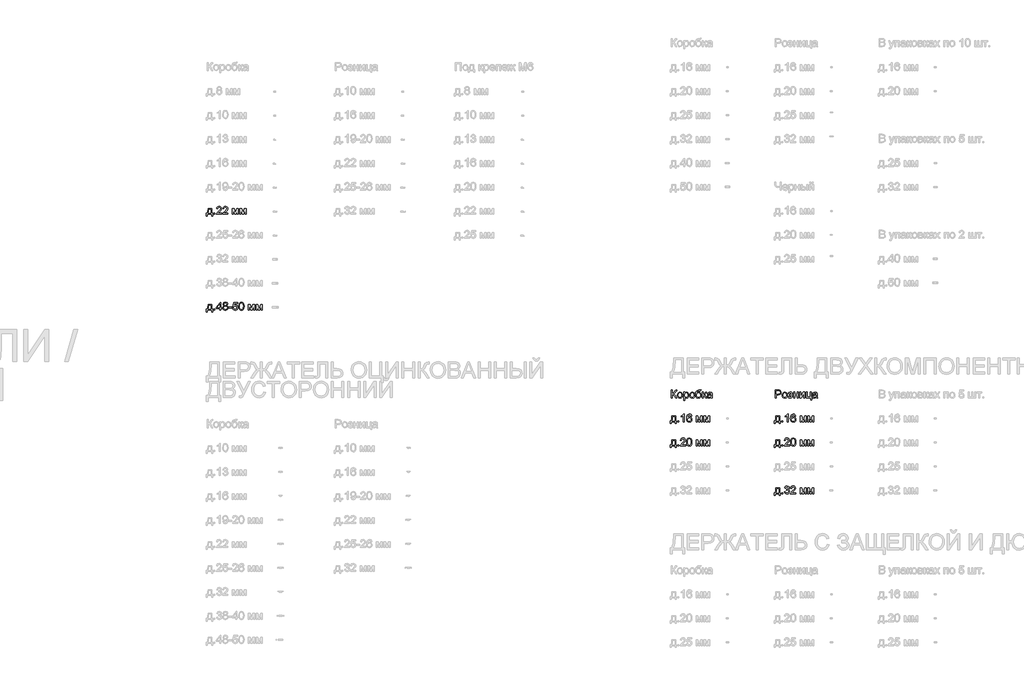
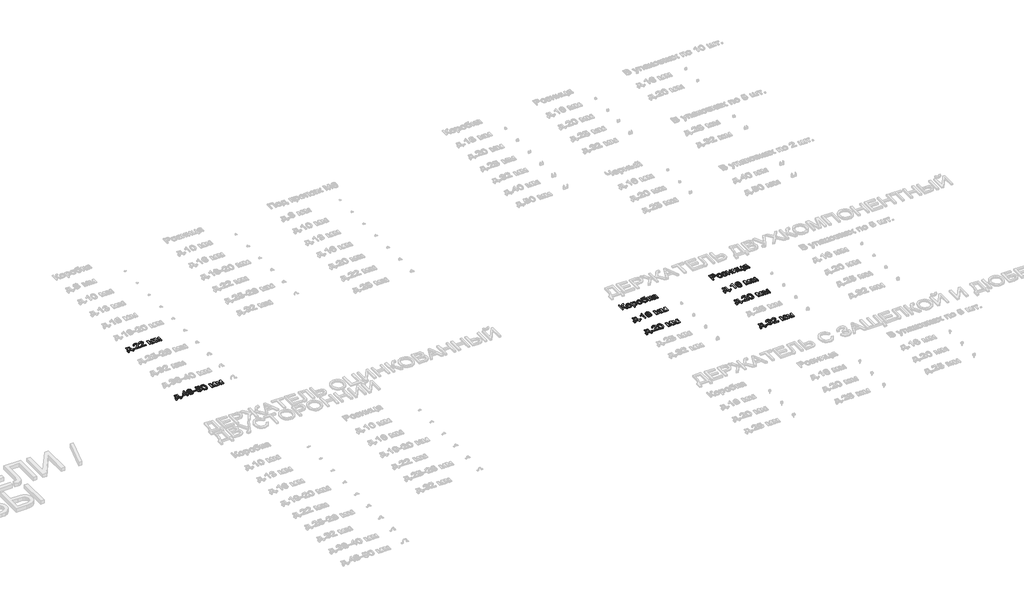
# One storey, part 37 of 98: 9 proxies.
"""IFC4 building model written with IfcOpenShell, lengths in millimetres."""

from ifc_helpers import new_model, si_unit, origin, origin_with_axes, place, context, project, spatial, polyline, outline, extrude, element, save

model = new_model("IFC4")

# Units and contexts
model_context = context("Model", 3, world=origin())
ifc_project = project(units=[si_unit("LENGTHUNIT", "METRE", prefix="MILLI")], contexts=[model_context])

# Site, building, storey
site = spatial("IfcSite", under=ifc_project)
building = spatial("IfcBuilding", under=site)
storey = spatial("IfcBuildingStorey", under=building, Name="Этаж 01", Elevation=0.0)

# Proxies
placement = place(None, origin())
element("IfcBuildingElementProxy", 1, Name="100", ObjectType="100", at=placement, inside=storey, context=model_context, shape_type="SweptSolid", body=[
    extrude(outline(polyline([(-26.9858135, -33985.7395637), (20.1030819, -33985.7395637), (20.1030819, -34046.9551277), (29.520861, -34046.9551277), (29.520861, -34079.9173545), (16.9638222, -34079.9173545), (16.9638222, -34059.5121665), (-34.8339627, -34059.5121665), (-34.8339627, -34079.9173545), (-47.3910015, -34079.9173545), (-47.3910015, -34046.9551277), (-39.5428522, -34046.9551277), (-29.8430303, -34023.0060098), (-26.9858135, -33985.7395637)]), holes=[polyline([(-15.9984045, -33998.2966025), (-18.9414605, -34026.905559), (-25.4161836, -34046.9551277), (7.5460431, -34046.9551277), (7.5460431, -33998.2966025), (-15.9984045, -33998.2966025)])]), origin_with_axes(), (0.0, 0.0, 1.0), 10.0),
    extrude(outline(polyline([(46.7867893, -34059.5121665), (46.7867893, -34046.9551277), (59.3438281, -34046.9551277), (59.3438281, -34059.5121665), (46.7867893, -34059.5121665)])), origin_with_axes(), (0.0, 0.0, 1.0), 10.0),
    extrude(outline(polyline([(144.1038398, -34046.9551277), (144.1038398, -34059.5121665), (78.1793862, -34059.5121665), (79.5282869, -34050.8546768), (87.1557069, -34037.5250859), (102.8765308, -34022.9692216), (124.5570431, -34002.0489988), (129.9771711, -33987.8242283), (124.8636114, -33976.3095219), (111.509495, -33971.6128951), (97.5912928, -33976.1991573), (92.3060548, -33988.8788234), (79.7490161, -33987.3091935), (82.7932396, -33975.1629563), (89.3752616, -33966.2908689), (99.1517256, -33960.8646095), (111.7792751, -33959.0558563), (124.4987951, -33961.0669445), (134.256865, -33967.1002093), (140.4648737, -33976.1133182), (142.5342099, -33987.0639389), (140.3023925, -33998.9710528), (132.8834389, -34011.2828369), (114.8940093, -34028.4874515), (100.4485097, -34040.5662437), (94.7831269, -34046.9551277), (144.1038398, -34046.9551277)])), origin_with_axes(), (0.0, 0.0, 1.0), 10.0),
    extrude(outline(polyline([(221.0157022, -34046.9551277), (221.0157022, -34059.5121665), (155.0912487, -34059.5121665), (156.4401493, -34050.8546768), (164.0675694, -34037.5250859), (179.7883933, -34022.9692216), (201.4689055, -34002.0489988), (206.8890336, -33987.8242283), (201.7754739, -33976.3095219), (188.4213574, -33971.6128951), (174.5031553, -33976.1991573), (169.2179173, -33988.8788234), (156.6608785, -33987.3091935), (159.705102, -33975.1629563), (166.2871241, -33966.2908689), (176.0635881, -33960.8646095), (188.6911376, -33959.0558563), (201.4106576, -33961.0669445), (211.1687275, -33967.1002093), (217.3767361, -33976.1133182), (219.4460724, -33987.0639389), (217.2142549, -33998.9710528), (209.7953014, -34011.2828369), (191.8058718, -34028.4874515), (177.3603721, -34040.5662437), (171.6949894, -34046.9551277), (221.0157022, -34046.9551277)])), origin_with_axes(), (0.0, 0.0, 1.0), 10.0),
    extrude(outline(polyline([(275.9527468, -33985.7395637), (297.5596827, -33985.7395637), (314.2124743, -34044.7968867), (332.1651157, -33985.7395637), (352.8646093, -33985.7395637), (352.8646093, -34059.5121665), (340.3075705, -34059.5121665), (340.3075705, -34000.111487), (322.2568273, -34059.5121665), (305.7757139, -34059.5121665), (288.5097856, -33997.2665329), (288.5097856, -34059.5121665), (275.9527468, -34059.5121665), (275.9527468, -33985.7395637)])), origin_with_axes(), (0.0, 0.0, 1.0), 10.0),
    extrude(outline(polyline([(371.7001674, -33985.7395637), (393.3071033, -33985.7395637), (409.9598949, -34044.7968867), (427.9125363, -33985.7395637), (448.6120299, -33985.7395637), (448.6120299, -34059.5121665), (436.0549911, -34059.5121665), (436.0549911, -34000.111487), (418.0042479, -34059.5121665), (401.5231345, -34059.5121665), (384.2572062, -33997.2665329), (384.2572062, -34059.5121665), (371.7001674, -34059.5121665), (371.7001674, -33985.7395637)])), origin_with_axes(), (0.0, 0.0, 1.0), 10.0),
])
element("IfcBuildingElementProxy", 2, Name="100", ObjectType="100", at=placement, inside=storey, context=model_context, shape_type="SweptSolid", body=[
    extrude(outline(polyline([(-26.9858135, -35185.7395637), (20.1030819, -35185.7395637), (20.1030819, -35246.9551277), (29.520861, -35246.9551277), (29.520861, -35279.9173545), (16.9638222, -35279.9173545), (16.9638222, -35259.5121665), (-34.8339627, -35259.5121665), (-34.8339627, -35279.9173545), (-47.3910015, -35279.9173545), (-47.3910015, -35246.9551277), (-39.5428522, -35246.9551277), (-29.8430303, -35223.0060098), (-26.9858135, -35185.7395637)]), holes=[polyline([(-15.9984045, -35198.2966025), (-18.9414605, -35226.905559), (-25.4161836, -35246.9551277), (7.5460431, -35246.9551277), (7.5460431, -35198.2966025), (-15.9984045, -35198.2966025)])]), origin_with_axes(), (0.0, 0.0, 1.0), 10.0),
    extrude(outline(polyline([(46.7867893, -35259.5121665), (46.7867893, -35246.9551277), (59.3438281, -35246.9551277), (59.3438281, -35259.5121665), (46.7867893, -35259.5121665)])), origin_with_axes(), (0.0, 0.0, 1.0), 10.0),
    extrude(outline(polyline([(120.5593921, -35259.5121665), (120.5593921, -35235.9677188), (75.0401265, -35235.9677188), (75.0401265, -35223.41068), (123.6986518, -35160.6254862), (133.1164308, -35160.6254862), (133.1164308, -35223.41068), (145.6734696, -35223.41068), (145.6734696, -35235.9677188), (133.1164308, -35235.9677188), (133.1164308, -35259.5121665), (120.5593921, -35259.5121665)]), holes=[polyline([(120.5593921, -35223.41068), (120.5593921, -35184.6113922), (90.4911703, -35223.41068), (120.5593921, -35223.41068)])]), origin_with_axes(), (0.0, 0.0, 1.0), 10.0),
    extrude(outline(polyline([(174.9568764, -35204.1827144), (163.5157464, -35196.3836161), (159.8001382, -35184.2435102), (161.8234892, -35174.4271923), (167.8935421, -35166.3153943), (177.3297153, -35160.8707408), (189.451427, -35159.0558563), (201.6467152, -35160.9136604), (211.2055157, -35166.4870726), (217.3859332, -35174.7276293), (219.4460724, -35184.5868668), (215.7795151, -35196.4204043), (204.6572162, -35204.1827144), (218.0113326, -35214.0296891), (222.5853321, -35230.2778106), (220.3167264, -35242.2830264), (213.5109095, -35252.2035775), (203.0017472, -35258.8622416), (189.6231053, -35261.0817963), (176.2444634, -35258.8530446), (165.7353011, -35252.1667893), (158.9294842, -35242.151202), (156.6608785, -35229.934454), (161.418819, -35213.3061879), (174.9568764, -35204.1827144)]), holes=[polyline([(169.2179173, -35229.4929957), (171.3148447, -35238.9475629), (178.7337982, -35246.02316), (189.7212072, -35248.5247575), (198.2683322, -35247.2095794), (204.6817416, -35243.264045), (210.0282933, -35229.8854031), (204.5100634, -35216.2492438), (197.9495011, -35212.2025419), (189.3042742, -35210.8536412), (180.8767109, -35212.1841478), (174.5276808, -35216.1756674), (169.2179173, -35229.4929957)]), polyline([(172.357177, -35184.6113922), (176.8085491, -35194.4706297), (189.7702581, -35198.2966025), (202.4744497, -35194.4951552), (206.8890336, -35185.175478), (202.3272969, -35175.524707), (189.6231053, -35171.6128951), (176.8821255, -35175.4388678), (172.357177, -35184.6113922)])]), origin_with_axes(), (0.0, 0.0, 1.0), 10.0),
    extrude(outline(polyline([(230.4334813, -35229.6891994), (230.4334813, -35217.1321606), (269.6742274, -35217.1321606), (269.6742274, -35229.6891994), (230.4334813, -35229.6891994)])), origin_with_axes(), (0.0, 0.0, 1.0), 10.0),
    extrude(outline(polyline([(280.6616364, -35232.8284591), (293.2186751, -35231.2588292), (299.5462454, -35244.1960127), (312.6673699, -35248.5247575), (321.6682161, -35247.019507), (328.4127193, -35242.5037555), (332.6249682, -35235.4986692), (334.0290511, -35226.5254142), (328.7683386, -35211.6139307), (322.1617911, -35207.5120464), (312.8635737, -35206.1447517), (301.8393766, -35208.3275182), (294.788305, -35213.9929009), (282.2312662, -35212.4232711), (293.2186751, -35160.6254862), (341.8772004, -35160.6254862), (341.8772004, -35173.1825249), (303.3722182, -35173.1825249), (298.0011411, -35200.847251), (306.9713304, -35195.4025974), (316.3707154, -35193.5877129), (328.1030853, -35195.8379245), (337.8427611, -35202.5885591), (344.4002577, -35212.8769922), (346.5860899, -35225.7405993), (344.6179212, -35238.2976381), (338.7134152, -35249.0397923), (327.4071752, -35258.0712953), (312.618319, -35261.0817963), (300.2850751, -35259.1473501), (290.4595602, -35253.3440117), (283.724254, -35244.3462312), (280.6616364, -35232.8284591)])), origin_with_axes(), (0.0, 0.0, 1.0), 10.0),
    extrude(outline(polyline([(357.5734988, -35210.0933518), (361.2645815, -35181.1900897), (372.227465, -35164.5250353), (390.5357256, -35159.0558563), (405.2019545, -35162.2932179), (415.3309721, -35171.6251578), (421.217084, -35186.4875904), (423.4979524, -35210.0933518), (419.8436579, -35238.8739865), (408.9175626, -35255.5758291), (400.686203, -35259.7053045), (390.5357256, -35261.0817963), (377.4881775, -35258.6905633), (367.5798891, -35251.5168644), (360.0750964, -35234.5268476), (357.5734988, -35210.0933518)]), holes=[polyline([(370.1305376, -35210.0688263), (371.6020656, -35229.8210238), (376.0166495, -35241.2529568), (382.5894745, -35246.7068073), (390.5357256, -35248.5247575), (398.4819767, -35246.700676), (405.0548017, -35241.2284313), (409.4693856, -35229.7903669), (410.9409136, -35210.0688263), (409.5184365, -35190.7611529), (405.2510054, -35179.2403151), (398.6904431, -35173.5197501), (390.3885728, -35171.6128951), (382.5281608, -35173.2928895), (376.2128532, -35178.3328729), (371.6511165, -35190.5710806), (370.1305376, -35210.0688263)])]), origin_with_axes(), (0.0, 0.0, 1.0), 10.0),
    extrude(outline(polyline([(476.8653671, -35185.7395637), (498.472303, -35185.7395637), (515.1250946, -35244.7968867), (533.077736, -35185.7395637), (553.7772296, -35185.7395637), (553.7772296, -35259.5121665), (541.2201908, -35259.5121665), (541.2201908, -35200.111487), (523.1694476, -35259.5121665), (506.6883342, -35259.5121665), (489.4224059, -35197.2665329), (489.4224059, -35259.5121665), (476.8653671, -35259.5121665), (476.8653671, -35185.7395637)])), origin_with_axes(), (0.0, 0.0, 1.0), 10.0),
    extrude(outline(polyline([(572.6127877, -35185.7395637), (594.2197236, -35185.7395637), (610.8725152, -35244.7968867), (628.8251566, -35185.7395637), (649.5246502, -35185.7395637), (649.5246502, -35259.5121665), (636.9676114, -35259.5121665), (636.9676114, -35200.111487), (618.9168682, -35259.5121665), (602.4357548, -35259.5121665), (585.1698265, -35197.2665329), (585.1698265, -35259.5121665), (572.6127877, -35259.5121665), (572.6127877, -35185.7395637)])), origin_with_axes(), (0.0, 0.0, 1.0), 10.0),
])
element("IfcBuildingElementProxy", 3, Name="100", ObjectType="100", at=placement, inside=storey, context=model_context, shape_type="SweptSolid", body=[
    extrude(outline(polyline([(5774.7606918, -36585.7395637), (5821.8495872, -36585.7395637), (5821.8495872, -36646.9551277), (5831.2673663, -36646.9551277), (5831.2673663, -36679.9173545), (5818.7103275, -36679.9173545), (5818.7103275, -36659.5121665), (5766.9125426, -36659.5121665), (5766.9125426, -36679.9173545), (5754.3555038, -36679.9173545), (5754.3555038, -36646.9551277), (5762.2036531, -36646.9551277), (5771.903475, -36623.0060098), (5774.7606918, -36585.7395637)]), holes=[polyline([(5785.7481007, -36598.2966025), (5782.8050448, -36626.905559), (5776.3303217, -36646.9551277), (5809.2925484, -36646.9551277), (5809.2925484, -36598.2966025), (5785.7481007, -36598.2966025)])]), origin_with_axes(), (0.0, 0.0, 1.0), 10.0),
    extrude(outline(polyline([(5848.5332946, -36659.5121665), (5848.5332946, -36646.9551277), (5861.0903334, -36646.9551277), (5861.0903334, -36659.5121665), (5848.5332946, -36659.5121665)])), origin_with_axes(), (0.0, 0.0, 1.0), 10.0),
    extrude(outline(polyline([(5928.5844167, -36659.5121665), (5916.027378, -36659.5121665), (5916.027378, -36581.2268779), (5904.1325268, -36589.7004265), (5890.9133004, -36596.0402596), (5890.9133004, -36584.1699338), (5909.3196629, -36572.4222355), (5920.4910128, -36559.0558563), (5928.5844167, -36559.0558563), (5928.5844167, -36659.5121665)])), origin_with_axes(), (0.0, 0.0, 1.0), 10.0),
    extrude(outline(polyline([(6022.7622075, -36585.7395637), (6010.2051687, -36587.3091935), (6005.4472283, -36576.8368194), (5992.865664, -36571.6128951), (5981.5348986, -36574.6540529), (5972.9632481, -36586.0706575), (5969.3947927, -36608.4501455), (5980.4680408, -36598.4314925), (5994.1900392, -36595.1573428), (6005.7905848, -36597.3952916), (6015.5271949, -36604.109138), (6022.1306767, -36614.3669143), (6024.3318374, -36627.2366527), (6020.1870335, -36644.5638947), (6008.7826917, -36656.8266279), (5992.3261038, -36661.0817963), (5978.0798735, -36658.2613677), (5966.7337796, -36649.8000818), (5959.3117604, -36634.8640728), (5956.837754, -36612.6194748), (5959.5846062, -36587.6096305), (5967.8251629, -36570.5092491), (5979.0762206, -36561.9192045), (5993.650479, -36559.0558563), (6004.6685447, -36560.8278213), (6013.4915812, -36566.1437161), (6019.6719987, -36574.5866079), (6022.7622075, -36585.7395637)]), holes=[polyline([(5969.3947927, -36627.040449), (5972.3010605, -36637.9174933), (5980.0265824, -36645.8146935), (5991.3450851, -36648.5247575), (5999.6316271, -36647.1206746), (6006.1462041, -36642.9084257), (6010.36765, -36636.2865498), (6011.7747986, -36627.6535857), (6010.3860441, -36619.3670437), (6006.2197805, -36613.0486705), (5999.5948389, -36609.0479538), (5990.8300503, -36607.7143815), (5975.6365239, -36613.0486705), (5970.9552255, -36619.2137596), (5969.3947927, -36627.040449)])]), origin_with_axes(), (0.0, 0.0, 1.0), 10.0),
    extrude(outline(polyline([(6077.6992521, -36585.7395637), (6099.306188, -36585.7395637), (6115.9589796, -36644.7968867), (6133.911621, -36585.7395637), (6154.6111146, -36585.7395637), (6154.6111146, -36659.5121665), (6142.0540758, -36659.5121665), (6142.0540758, -36600.111487), (6124.0033326, -36659.5121665), (6107.5222192, -36659.5121665), (6090.2562909, -36597.2665329), (6090.2562909, -36659.5121665), (6077.6992521, -36659.5121665), (6077.6992521, -36585.7395637)])), origin_with_axes(), (0.0, 0.0, 1.0), 10.0),
    extrude(outline(polyline([(6173.4466727, -36585.7395637), (6195.0536086, -36585.7395637), (6211.7064002, -36644.7968867), (6229.6590416, -36585.7395637), (6250.3585352, -36585.7395637), (6250.3585352, -36659.5121665), (6237.8014964, -36659.5121665), (6237.8014964, -36600.111487), (6219.7507532, -36659.5121665), (6203.2696398, -36659.5121665), (6186.0037115, -36597.2665329), (6186.0037115, -36659.5121665), (6173.4466727, -36659.5121665), (6173.4466727, -36585.7395637)])), origin_with_axes(), (0.0, 0.0, 1.0), 10.0),
])
element("IfcBuildingElementProxy", 4, Name="100", ObjectType="100", at=placement, inside=storey, context=model_context, shape_type="SweptSolid", body=[
    extrude(outline(polyline([(5765.3429127, -36259.0558563), (5777.8999515, -36259.0558563), (5777.8999515, -36303.005492), (5791.940781, -36299.6822913), (5801.7387048, -36282.8700841), (5808.667149, -36268.8292546), (5816.5152983, -36261.8762849), (5827.7356991, -36259.0558563), (5835.9762558, -36259.2030091), (5835.9762558, -36271.7600479), (5833.2048781, -36271.6864715), (5830.4335004, -36271.6128951), (5820.6233139, -36274.6295274), (5813.1675721, -36287.5544482), (5804.2770906, -36303.2997976), (5795.6073382, -36308.4991965), (5805.3010288, -36314.1768419), (5814.8598293, -36326.0103794), (5835.9762558, -36359.5121665), (5821.4081288, -36359.5121665), (5803.5535893, -36331.2097783), (5790.9842878, -36316.4331848), (5777.8999515, -36312.4232711), (5777.8999515, -36359.5121665), (5765.3429127, -36359.5121665), (5765.3429127, -36259.0558563)])), origin_with_axes(), (0.0, 0.0, 1.0), 10.0),
    extrude(outline(polyline([(5842.2547752, -36322.6258651), (5844.9709706, -36304.8387706), (5853.1195568, -36292.3369141), (5863.1872607, -36286.2116789), (5875.2415274, -36284.1699338), (5888.4331627, -36286.656203), (5898.9699161, -36294.1150104), (5905.8769006, -36305.957745), (5908.1792287, -36321.5957955), (5904.1080013, -36343.9384953), (5892.2499384, -36356.5813732), (5875.2415274, -36361.0817963), (5861.8904767, -36358.6047242), (5851.365986, -36351.1735079), (5844.5325779, -36339.082453), (5842.2547752, -36322.6258651)]), holes=[polyline([(5854.811814, -36322.6013396), (5856.2649479, -36333.9658276), (5860.6243495, -36342.0622972), (5867.1849117, -36346.9091424), (5875.2415274, -36348.5247575), (5883.2613549, -36346.8999454), (5889.8096545, -36342.025509), (5894.1690561, -36333.8217405), (5895.62219, -36322.2089321), (5894.159859, -36311.175538), (5889.7728663, -36303.189433), (5883.2153697, -36298.3425877), (5875.2415274, -36296.7269726), (5867.1849117, -36298.3364563), (5860.6243495, -36303.1649075), (5856.2649479, -36311.242983), (5854.811814, -36322.6013396)])]), origin_with_axes(), (0.0, 0.0, 1.0), 10.0),
    extrude(outline(polyline([(5922.3058974, -36387.7655037), (5922.3058974, -36285.7395637), (5934.8629361, -36285.7395637), (5934.8629361, -36298.0513478), (5943.5449512, -36287.6402873), (5955.2681241, -36284.1699338), (5971.1851518, -36289.0259762), (5981.5839495, -36302.7111864), (5985.0910912, -36322.0617793), (5981.1302284, -36342.4056537), (5969.6277847, -36356.2625422), (5953.7475452, -36361.0817963), (5942.82145, -36357.8566975), (5934.8629361, -36349.7019799), (5934.8629361, -36387.7655037), (5922.3058974, -36387.7655037)]), holes=[polyline([(5934.8629361, -36323.2144763), (5936.2210338, -36334.4716653), (5940.2953269, -36342.34434), (5946.3071319, -36346.9796532), (5953.4777651, -36348.5247575), (5960.7648943, -36346.9244709), (5966.9299834, -36342.1236108), (5971.1330352, -36333.9627619), (5972.5340524, -36322.2825085), (5971.1667577, -36311.0866332), (5967.0648734, -36303.1035939), (5961.0622655, -36298.3211279), (5953.9927999, -36296.7269726), (5946.8957431, -36298.4222955), (5940.6632089, -36303.5082641), (5936.3130043, -36311.8254628), (5934.8629361, -36323.2144763)])]), origin_with_axes(), (0.0, 0.0, 1.0), 10.0),
    extrude(outline(polyline([(5996.0785001, -36322.6258651), (5998.7946955, -36304.8387706), (6006.9432817, -36292.3369141), (6017.0109856, -36286.2116789), (6029.0652524, -36284.1699338), (6042.2568876, -36286.656203), (6052.793641, -36294.1150104), (6059.7006255, -36305.957745), (6062.0029537, -36321.5957955), (6057.9317262, -36343.9384953), (6046.0736633, -36356.5813732), (6029.0652524, -36361.0817963), (6015.7142016, -36358.6047242), (6005.1897109, -36351.1735079), (5998.3563028, -36339.082453), (5996.0785001, -36322.6258651)]), holes=[polyline([(6008.6355389, -36322.6013396), (6010.0886728, -36333.9658276), (6014.4480744, -36342.0622972), (6021.0086367, -36346.9091424), (6029.0652524, -36348.5247575), (6037.0850799, -36346.8999454), (6043.6333794, -36342.025509), (6047.992781, -36333.8217405), (6049.4459149, -36322.2089321), (6047.983584, -36311.175538), (6043.5965912, -36303.189433), (6037.0390946, -36298.3425877), (6029.0652524, -36296.7269726), (6021.0086367, -36298.3364563), (6014.4480744, -36303.1649075), (6010.0886728, -36311.242983), (6008.6355389, -36322.6013396)])]), origin_with_axes(), (0.0, 0.0, 1.0), 10.0),
    extrude(outline(polyline([(6127.9274072, -36257.4862265), (6138.9148161, -36257.4862265), (6135.6774546, -36267.2841503), (6129.2763078, -36270.8280802), (6113.8988404, -36271.6128951), (6093.1870841, -36274.5069001), (6085.240833, -36283.7775264), (6082.5552945, -36300.1850634), (6093.4323388, -36288.1675849), (6107.4486428, -36284.1699338), (6120.514585, -36286.7113853), (6131.1157178, -36294.3357396), (6138.1422639, -36306.2949702), (6140.484446, -36321.8410502), (6135.8368701, -36343.447986), (6124.812673, -36356.4832714), (6107.4486428, -36361.0817963), (6096.1148117, -36359.6010713), (6087.6198033, -36355.1588962), (6076.7672844, -36340.002158), (6072.9903626, -36307.8370089), (6075.3723985, -36283.7438039), (6082.5185063, -36269.0499838), (6094.6064955, -36261.5543882), (6111.8141758, -36259.0558563), (6125.7936916, -36258.7738134), (6127.9274072, -36257.4862265)]), holes=[polyline([(6127.9274072, -36321.4486427), (6126.5662438, -36311.5679454), (6122.4827537, -36303.6554169), (6115.9221914, -36298.4590837), (6107.1298117, -36296.7269726), (6097.9634187, -36298.5571855), (6091.1637331, -36304.0478243), (6086.9514843, -36312.598015), (6085.5474014, -36323.6068837), (6087.0986371, -36334.2785273), (6091.7523443, -36342.1113481), (6098.6807886, -36346.9214052), (6107.0562353, -36348.5247575), (6115.4746017, -36346.6700191), (6122.1393971, -36341.105804), (6126.4804047, -36332.4820369), (6127.9274072, -36321.4486427)])]), origin_with_axes(), (0.0, 0.0, 1.0), 10.0),
    extrude(outline(polyline([(6156.1807444, -36285.7395637), (6168.7377832, -36285.7395637), (6168.7377832, -36317.1321606), (6177.1500181, -36314.8758177), (6184.0416742, -36301.7301677), (6189.7683706, -36290.3871396), (6194.8206167, -36286.6960569), (6204.0054038, -36285.7395637), (6206.4088995, -36285.7395637), (6206.4088995, -36298.3701789), (6203.0243851, -36298.2966025), (6196.8930186, -36299.6209776), (6192.5765365, -36307.8860598), (6187.5120277, -36316.8255923), (6180.4119052, -36321.203388), (6188.3336308, -36326.0900872), (6196.1082036, -36336.3846517), (6209.5481592, -36359.5121665), (6195.2743378, -36359.5121665), (6182.1041624, -36336.875161), (6175.4822864, -36327.2979664), (6168.7377832, -36324.9803098), (6168.7377832, -36359.5121665), (6156.1807444, -36359.5121665), (6156.1807444, -36285.7395637)])), origin_with_axes(), (0.0, 0.0, 1.0), 10.0),
    extrude(outline(polyline([(6264.4852038, -36350.0943874), (6252.3083098, -36358.6047242), (6238.8560915, -36361.0817963), (6228.3622576, -36359.5918742), (6220.6214072, -36355.122108), (6215.8481384, -36348.3346852), (6214.2570487, -36339.8917934), (6216.6605444, -36329.9589795), (6222.975852, -36322.7484924), (6231.7682317, -36318.6282141), (6242.6330133, -36316.7397532), (6264.4116274, -36312.4232711), (6264.4852038, -36309.6273679), (6261.027113, -36300.3567416), (6247.1456991, -36296.7269726), (6234.4415075, -36299.142731), (6228.3837173, -36307.7143815), (6215.8266786, -36306.1447517), (6221.2590694, -36293.8820185), (6232.1974274, -36286.6960569), (6248.7643799, -36284.1699338), (6263.9824317, -36286.4017513), (6272.5786077, -36292.0058203), (6276.4291059, -36300.5284199), (6277.0422426, -36311.5158288), (6277.0422426, -36327.1385509), (6277.6799047, -36348.9539532), (6280.1815023, -36359.5121665), (6267.6244635, -36359.5121665), (6264.4852038, -36350.0943874)]), holes=[polyline([(6264.4852038, -36324.9803098), (6244.2271686, -36328.8308081), (6233.4237007, -36330.8664218), (6228.5308701, -36334.1773597), (6226.8140875, -36339.0088766), (6230.5542211, -36345.8024308), (6241.5293673, -36348.5247575), (6254.2335589, -36345.5203879), (6262.4250646, -36338.2485871), (6264.4116274, -36328.5365025), (6264.4852038, -36324.9803098)])]), origin_with_axes(), (0.0, 0.0, 1.0), 10.0),
])
element("IfcBuildingElementProxy", 5, Name="100", ObjectType="100", at=placement, inside=storey, context=model_context, shape_type="SweptSolid", body=[
    extrude(outline(polyline([(5774.7606918, -36885.7395637), (5821.8495872, -36885.7395637), (5821.8495872, -36946.9551277), (5831.2673663, -36946.9551277), (5831.2673663, -36979.9173545), (5818.7103275, -36979.9173545), (5818.7103275, -36959.5121665), (5766.9125426, -36959.5121665), (5766.9125426, -36979.9173545), (5754.3555038, -36979.9173545), (5754.3555038, -36946.9551277), (5762.2036531, -36946.9551277), (5771.903475, -36923.0060098), (5774.7606918, -36885.7395637)]), holes=[polyline([(5785.7481007, -36898.2966025), (5782.8050448, -36926.905559), (5776.3303217, -36946.9551277), (5809.2925484, -36946.9551277), (5809.2925484, -36898.2966025), (5785.7481007, -36898.2966025)])]), origin_with_axes(), (0.0, 0.0, 1.0), 10.0),
    extrude(outline(polyline([(5848.5332946, -36959.5121665), (5848.5332946, -36946.9551277), (5861.0903334, -36946.9551277), (5861.0903334, -36959.5121665), (5848.5332946, -36959.5121665)])), origin_with_axes(), (0.0, 0.0, 1.0), 10.0),
    extrude(outline(polyline([(5945.850345, -36946.9551277), (5945.850345, -36959.5121665), (5879.9258915, -36959.5121665), (5881.2747922, -36950.8546768), (5888.9022122, -36937.5250859), (5904.6230361, -36922.9692216), (5926.3035484, -36902.0489988), (5931.7236764, -36887.8242283), (5926.6101167, -36876.3095219), (5913.2560003, -36871.6128951), (5899.3377981, -36876.1991573), (5894.0525601, -36888.8788234), (5881.4955214, -36887.3091935), (5884.5397449, -36875.1629563), (5891.1217669, -36866.2908689), (5900.8982309, -36860.8646095), (5913.5257804, -36859.0558563), (5926.2453004, -36861.0669445), (5936.0033703, -36867.1002093), (5942.211379, -36876.1133182), (5944.2807152, -36887.0639389), (5942.0488978, -36898.9710528), (5934.6299442, -36911.2828369), (5916.6405146, -36928.4874515), (5902.195015, -36940.5662437), (5896.5296322, -36946.9551277), (5945.850345, -36946.9551277)])), origin_with_axes(), (0.0, 0.0, 1.0), 10.0),
    extrude(outline(polyline([(5958.4073838, -36910.0933518), (5962.0984665, -36881.1900897), (5973.06135, -36864.5250353), (5991.3696106, -36859.0558563), (6006.0358395, -36862.2932179), (6016.1648571, -36871.6251578), (6022.050969, -36886.4875904), (6024.3318374, -36910.0933518), (6020.6775429, -36938.8739865), (6009.7514476, -36955.5758291), (6001.520088, -36959.7053045), (5991.3696106, -36961.0817963), (5978.3220625, -36958.6905633), (5968.4137741, -36951.5168644), (5960.9089814, -36934.5268476), (5958.4073838, -36910.0933518)]), holes=[polyline([(5970.9644226, -36910.0688263), (5972.4359506, -36929.8210238), (5976.8505345, -36941.2529568), (5983.4233595, -36946.7068073), (5991.3696106, -36948.5247575), (5999.3158617, -36946.700676), (6005.8886867, -36941.2284313), (6010.3032706, -36929.7903669), (6011.7747986, -36910.0688263), (6010.3523215, -36890.7611529), (6006.0848904, -36879.2403151), (5999.5243281, -36873.5197501), (5991.2224578, -36871.6128951), (5983.3620458, -36873.2928895), (5977.0467382, -36878.3328729), (5972.4850015, -36890.5710806), (5970.9644226, -36910.0688263)])]), origin_with_axes(), (0.0, 0.0, 1.0), 10.0),
    extrude(outline(polyline([(6077.6992521, -36885.7395637), (6099.306188, -36885.7395637), (6115.9589796, -36944.7968867), (6133.911621, -36885.7395637), (6154.6111146, -36885.7395637), (6154.6111146, -36959.5121665), (6142.0540758, -36959.5121665), (6142.0540758, -36900.111487), (6124.0033326, -36959.5121665), (6107.5222192, -36959.5121665), (6090.2562909, -36897.2665329), (6090.2562909, -36959.5121665), (6077.6992521, -36959.5121665), (6077.6992521, -36885.7395637)])), origin_with_axes(), (0.0, 0.0, 1.0), 10.0),
    extrude(outline(polyline([(6173.4466727, -36885.7395637), (6195.0536086, -36885.7395637), (6211.7064002, -36944.7968867), (6229.6590416, -36885.7395637), (6250.3585352, -36885.7395637), (6250.3585352, -36959.5121665), (6237.8014964, -36959.5121665), (6237.8014964, -36900.111487), (6219.7507532, -36959.5121665), (6203.2696398, -36959.5121665), (6186.0037115, -36897.2665329), (6186.0037115, -36959.5121665), (6173.4466727, -36959.5121665), (6173.4466727, -36885.7395637)])), origin_with_axes(), (0.0, 0.0, 1.0), 10.0),
])
element("IfcBuildingElementProxy", 6, Name="100", ObjectType="100", at=placement, inside=storey, context=model_context, shape_type="SweptSolid", body=[
    extrude(outline(polyline([(7065.3429127, -36359.5121665), (7065.3429127, -36259.0558563), (7102.5725707, -36259.0558563), (7117.5821561, -36260.0123495), (7129.7835756, -36264.7089763), (7137.6930385, -36274.421061), (7140.6851454, -36288.1185339), (7138.6648601, -36299.9582028), (7132.6040042, -36309.8235716), (7121.2701731, -36316.4822358), (7103.430962, -36318.7017905), (7077.8999515, -36318.7017905), (7077.8999515, -36359.5121665), (7065.3429127, -36359.5121665)]), holes=[polyline([(7077.8999515, -36306.1447517), (7104.166726, -36306.1447517), (7122.6589276, -36301.533964), (7126.7608118, -36295.9850773), (7128.1281066, -36288.5599923), (7124.9030078, -36278.1611946), (7116.4294591, -36272.4712864), (7103.8724204, -36271.6128951), (7077.8999515, -36271.6128951), (7077.8999515, -36306.1447517)])]), origin_with_axes(), (0.0, 0.0, 1.0), 10.0),
    extrude(outline(polyline([(7153.2421841, -36322.6258651), (7155.9583795, -36304.8387706), (7164.1069657, -36292.3369141), (7174.1746697, -36286.2116789), (7186.2289364, -36284.1699338), (7199.4205716, -36286.656203), (7209.9573251, -36294.1150104), (7216.8643095, -36305.957745), (7219.1666377, -36321.5957955), (7215.0954103, -36343.9384953), (7203.2373473, -36356.5813732), (7186.2289364, -36361.0817963), (7172.8778856, -36358.6047242), (7162.3533949, -36351.1735079), (7155.5199868, -36339.082453), (7153.2421841, -36322.6258651)]), holes=[polyline([(7165.7992229, -36322.6013396), (7167.2523568, -36333.9658276), (7171.6117584, -36342.0622972), (7178.1723207, -36346.9091424), (7186.2289364, -36348.5247575), (7194.2487639, -36346.8999454), (7200.7970634, -36342.025509), (7205.156465, -36333.8217405), (7206.6095989, -36322.2089321), (7205.147268, -36311.175538), (7200.7602752, -36303.189433), (7194.2027786, -36298.3425877), (7186.2289364, -36296.7269726), (7178.1723207, -36298.3364563), (7171.6117584, -36303.1649075), (7167.2523568, -36311.242983), (7165.7992229, -36322.6013396)])]), origin_with_axes(), (0.0, 0.0, 1.0), 10.0),
    extrude(outline(polyline([(7250.5592346, -36326.5499397), (7250.5592346, -36313.9929009), (7260.467523, -36313.5023916), (7265.4707181, -36310.8904294), (7267.8251629, -36305.4335132), (7264.6736405, -36299.0936801), (7256.5434484, -36296.7269726), (7248.1434762, -36299.0814174), (7242.7110854, -36306.1447517), (7228.5844167, -36304.5751218), (7238.0267213, -36289.2712308), (7255.2681241, -36284.1699338), (7265.7650237, -36285.7242353), (7273.7112748, -36290.3871396), (7278.71447, -36297.2082849), (7280.3822017, -36305.2373094), (7278.0093628, -36313.0364077), (7270.8908462, -36319.0696725), (7279.1927165, -36326.8932962), (7281.9518315, -36338.1504853), (7280.2013263, -36347.3935204), (7274.9498109, -36354.7174378), (7266.5529043, -36359.4907067), (7255.366226, -36361.0817963), (7244.4248023, -36359.6102683), (7236.0524212, -36355.1956844), (7230.2490828, -36347.8380445), (7227.0147869, -36337.5373486), (7241.1414555, -36335.9677188), (7246.8068382, -36345.238345), (7256.5679738, -36348.5247575), (7265.7404983, -36345.3732351), (7269.3947927, -36337.3166194), (7267.1261871, -36330.719269), (7262.2946702, -36327.1876018), (7253.0117812, -36326.4763633), (7250.5592346, -36326.5499397)])), origin_with_axes(), (0.0, 0.0, 1.0), 10.0),
    extrude(outline(polyline([(7297.64813, -36285.7395637), (7310.2051687, -36285.7395637), (7310.2051687, -36313.9929009), (7343.1673955, -36313.9929009), (7343.1673955, -36285.7395637), (7355.7244343, -36285.7395637), (7355.7244343, -36359.5121665), (7343.1673955, -36359.5121665), (7343.1673955, -36326.5499397), (7310.2051687, -36326.5499397), (7310.2051687, -36359.5121665), (7297.64813, -36359.5121665), (7297.64813, -36285.7395637)])), origin_with_axes(), (0.0, 0.0, 1.0), 10.0),
    extrude(outline(polyline([(7374.5599924, -36285.7395637), (7387.1170312, -36285.7395637), (7387.1170312, -36342.0009835), (7417.9700679, -36285.7395637), (7434.2059266, -36285.7395637), (7434.2059266, -36359.5121665), (7421.6488878, -36359.5121665), (7421.6488878, -36303.5941032), (7390.9920549, -36359.5121665), (7374.5599924, -36359.5121665), (7374.5599924, -36285.7395637)])), origin_with_axes(), (0.0, 0.0, 1.0), 10.0),
    extrude(outline(polyline([(7453.0414847, -36285.7395637), (7465.5985235, -36285.7395637), (7465.5985235, -36346.9551277), (7501.70001, -36346.9551277), (7501.70001, -36285.7395637), (7514.2570487, -36285.7395637), (7514.2570487, -36346.9551277), (7522.105198, -36346.9551277), (7522.105198, -36379.9173545), (7509.5481592, -36379.9173545), (7509.5481592, -36359.5121665), (7453.0414847, -36359.5121665), (7453.0414847, -36285.7395637)])), origin_with_axes(), (0.0, 0.0, 1.0), 10.0),
    extrude(outline(polyline([(7580.1815023, -36350.0943874), (7568.0046082, -36358.6047242), (7554.5523899, -36361.0817963), (7544.058556, -36359.5918742), (7536.3177057, -36355.122108), (7531.5444368, -36348.3346852), (7529.9533472, -36339.8917934), (7532.3568429, -36329.9589795), (7538.6721505, -36322.7484924), (7547.4645302, -36318.6282141), (7558.3293118, -36316.7397532), (7580.1079259, -36312.4232711), (7580.1815023, -36309.6273679), (7576.7234115, -36300.3567416), (7562.8419976, -36296.7269726), (7550.137806, -36299.142731), (7544.0800158, -36307.7143815), (7531.522977, -36306.1447517), (7536.9553678, -36293.8820185), (7547.8937258, -36286.6960569), (7564.4606783, -36284.1699338), (7579.6787302, -36286.4017513), (7588.2749062, -36292.0058203), (7592.1254044, -36300.5284199), (7592.738541, -36311.5158288), (7592.738541, -36327.1385509), (7593.3762032, -36348.9539532), (7595.8778007, -36359.5121665), (7583.320762, -36359.5121665), (7580.1815023, -36350.0943874)]), holes=[polyline([(7580.1815023, -36324.9803098), (7559.9234671, -36328.8308081), (7549.1199991, -36330.8664218), (7544.2271686, -36334.1773597), (7542.510386, -36339.0088766), (7546.2505196, -36345.8024308), (7557.2256658, -36348.5247575), (7569.9298573, -36345.5203879), (7578.1213631, -36338.2485871), (7580.1079259, -36328.5365025), (7580.1815023, -36324.9803098)])]), origin_with_axes(), (0.0, 0.0, 1.0), 10.0),
])
element("IfcBuildingElementProxy", 7, Name="100", ObjectType="100", at=placement, inside=storey, context=model_context, shape_type="SweptSolid", body=[
    extrude(outline(polyline([(7074.7606918, -36585.7395637), (7121.8495872, -36585.7395637), (7121.8495872, -36646.9551277), (7131.2673663, -36646.9551277), (7131.2673663, -36679.9173545), (7118.7103275, -36679.9173545), (7118.7103275, -36659.5121665), (7066.9125426, -36659.5121665), (7066.9125426, -36679.9173545), (7054.3555038, -36679.9173545), (7054.3555038, -36646.9551277), (7062.2036531, -36646.9551277), (7071.903475, -36623.0060098), (7074.7606918, -36585.7395637)]), holes=[polyline([(7085.7481007, -36598.2966025), (7082.8050448, -36626.905559), (7076.3303217, -36646.9551277), (7109.2925484, -36646.9551277), (7109.2925484, -36598.2966025), (7085.7481007, -36598.2966025)])]), origin_with_axes(), (0.0, 0.0, 1.0), 10.0),
    extrude(outline(polyline([(7148.5332946, -36659.5121665), (7148.5332946, -36646.9551277), (7161.0903334, -36646.9551277), (7161.0903334, -36659.5121665), (7148.5332946, -36659.5121665)])), origin_with_axes(), (0.0, 0.0, 1.0), 10.0),
    extrude(outline(polyline([(7228.5844167, -36659.5121665), (7216.027378, -36659.5121665), (7216.027378, -36581.2268779), (7204.1325268, -36589.7004265), (7190.9133004, -36596.0402596), (7190.9133004, -36584.1699338), (7209.3196629, -36572.4222355), (7220.4910128, -36559.0558563), (7228.5844167, -36559.0558563), (7228.5844167, -36659.5121665)])), origin_with_axes(), (0.0, 0.0, 1.0), 10.0),
    extrude(outline(polyline([(7322.7622075, -36585.7395637), (7310.2051687, -36587.3091935), (7305.4472283, -36576.8368194), (7292.865664, -36571.6128951), (7281.5348986, -36574.6540529), (7272.9632481, -36586.0706575), (7269.3947927, -36608.4501455), (7280.4680408, -36598.4314925), (7294.1900392, -36595.1573428), (7305.7905848, -36597.3952916), (7315.5271949, -36604.109138), (7322.1306767, -36614.3669143), (7324.3318374, -36627.2366527), (7320.1870335, -36644.5638947), (7308.7826917, -36656.8266279), (7292.3261038, -36661.0817963), (7278.0798735, -36658.2613677), (7266.7337796, -36649.8000818), (7259.3117604, -36634.8640728), (7256.837754, -36612.6194748), (7259.5846062, -36587.6096305), (7267.8251629, -36570.5092491), (7279.0762206, -36561.9192045), (7293.650479, -36559.0558563), (7304.6685447, -36560.8278213), (7313.4915812, -36566.1437161), (7319.6719987, -36574.5866079), (7322.7622075, -36585.7395637)]), holes=[polyline([(7269.3947927, -36627.040449), (7272.3010605, -36637.9174933), (7280.0265824, -36645.8146935), (7291.3450851, -36648.5247575), (7299.6316271, -36647.1206746), (7306.1462041, -36642.9084257), (7310.36765, -36636.2865498), (7311.7747986, -36627.6535857), (7310.3860441, -36619.3670437), (7306.2197805, -36613.0486705), (7299.5948389, -36609.0479538), (7290.8300503, -36607.7143815), (7275.6365239, -36613.0486705), (7270.9552255, -36619.2137596), (7269.3947927, -36627.040449)])]), origin_with_axes(), (0.0, 0.0, 1.0), 10.0),
    extrude(outline(polyline([(7377.6992521, -36585.7395637), (7399.306188, -36585.7395637), (7415.9589796, -36644.7968867), (7433.911621, -36585.7395637), (7454.6111146, -36585.7395637), (7454.6111146, -36659.5121665), (7442.0540758, -36659.5121665), (7442.0540758, -36600.111487), (7424.0033326, -36659.5121665), (7407.5222192, -36659.5121665), (7390.2562909, -36597.2665329), (7390.2562909, -36659.5121665), (7377.6992521, -36659.5121665), (7377.6992521, -36585.7395637)])), origin_with_axes(), (0.0, 0.0, 1.0), 10.0),
    extrude(outline(polyline([(7473.4466727, -36585.7395637), (7495.0536086, -36585.7395637), (7511.7064002, -36644.7968867), (7529.6590416, -36585.7395637), (7550.3585352, -36585.7395637), (7550.3585352, -36659.5121665), (7537.8014964, -36659.5121665), (7537.8014964, -36600.111487), (7519.7507532, -36659.5121665), (7503.2696398, -36659.5121665), (7486.0037115, -36597.2665329), (7486.0037115, -36659.5121665), (7473.4466727, -36659.5121665), (7473.4466727, -36585.7395637)])), origin_with_axes(), (0.0, 0.0, 1.0), 10.0),
])
element("IfcBuildingElementProxy", 8, Name="100", ObjectType="100", at=placement, inside=storey, context=model_context, shape_type="SweptSolid", body=[
    extrude(outline(polyline([(7074.7606918, -36885.7395637), (7121.8495872, -36885.7395637), (7121.8495872, -36946.9551277), (7131.2673663, -36946.9551277), (7131.2673663, -36979.9173545), (7118.7103275, -36979.9173545), (7118.7103275, -36959.5121665), (7066.9125426, -36959.5121665), (7066.9125426, -36979.9173545), (7054.3555038, -36979.9173545), (7054.3555038, -36946.9551277), (7062.2036531, -36946.9551277), (7071.903475, -36923.0060098), (7074.7606918, -36885.7395637)]), holes=[polyline([(7085.7481007, -36898.2966025), (7082.8050448, -36926.905559), (7076.3303217, -36946.9551277), (7109.2925484, -36946.9551277), (7109.2925484, -36898.2966025), (7085.7481007, -36898.2966025)])]), origin_with_axes(), (0.0, 0.0, 1.0), 10.0),
    extrude(outline(polyline([(7148.5332946, -36959.5121665), (7148.5332946, -36946.9551277), (7161.0903334, -36946.9551277), (7161.0903334, -36959.5121665), (7148.5332946, -36959.5121665)])), origin_with_axes(), (0.0, 0.0, 1.0), 10.0),
    extrude(outline(polyline([(7245.850345, -36946.9551277), (7245.850345, -36959.5121665), (7179.9258915, -36959.5121665), (7181.2747922, -36950.8546768), (7188.9022122, -36937.5250859), (7204.6230361, -36922.9692216), (7226.3035484, -36902.0489988), (7231.7236764, -36887.8242283), (7226.6101167, -36876.3095219), (7213.2560003, -36871.6128951), (7199.3377981, -36876.1991573), (7194.0525601, -36888.8788234), (7181.4955214, -36887.3091935), (7184.5397449, -36875.1629563), (7191.1217669, -36866.2908689), (7200.8982309, -36860.8646095), (7213.5257804, -36859.0558563), (7226.2453004, -36861.0669445), (7236.0033703, -36867.1002093), (7242.211379, -36876.1133182), (7244.2807152, -36887.0639389), (7242.0488978, -36898.9710528), (7234.6299442, -36911.2828369), (7216.6405146, -36928.4874515), (7202.195015, -36940.5662437), (7196.5296322, -36946.9551277), (7245.850345, -36946.9551277)])), origin_with_axes(), (0.0, 0.0, 1.0), 10.0),
    extrude(outline(polyline([(7258.4073838, -36910.0933518), (7262.0984665, -36881.1900897), (7273.06135, -36864.5250353), (7291.3696106, -36859.0558563), (7306.0358395, -36862.2932179), (7316.1648571, -36871.6251578), (7322.050969, -36886.4875904), (7324.3318374, -36910.0933518), (7320.6775429, -36938.8739865), (7309.7514476, -36955.5758291), (7301.520088, -36959.7053045), (7291.3696106, -36961.0817963), (7278.3220625, -36958.6905633), (7268.4137741, -36951.5168644), (7260.9089814, -36934.5268476), (7258.4073838, -36910.0933518)]), holes=[polyline([(7270.9644226, -36910.0688263), (7272.4359506, -36929.8210238), (7276.8505345, -36941.2529568), (7283.4233595, -36946.7068073), (7291.3696106, -36948.5247575), (7299.3158617, -36946.700676), (7305.8886867, -36941.2284313), (7310.3032706, -36929.7903669), (7311.7747986, -36910.0688263), (7310.3523215, -36890.7611529), (7306.0848904, -36879.2403151), (7299.5243281, -36873.5197501), (7291.2224578, -36871.6128951), (7283.3620458, -36873.2928895), (7277.0467382, -36878.3328729), (7272.4850015, -36890.5710806), (7270.9644226, -36910.0688263)])]), origin_with_axes(), (0.0, 0.0, 1.0), 10.0),
    extrude(outline(polyline([(7377.6992521, -36885.7395637), (7399.306188, -36885.7395637), (7415.9589796, -36944.7968867), (7433.911621, -36885.7395637), (7454.6111146, -36885.7395637), (7454.6111146, -36959.5121665), (7442.0540758, -36959.5121665), (7442.0540758, -36900.111487), (7424.0033326, -36959.5121665), (7407.5222192, -36959.5121665), (7390.2562909, -36897.2665329), (7390.2562909, -36959.5121665), (7377.6992521, -36959.5121665), (7377.6992521, -36885.7395637)])), origin_with_axes(), (0.0, 0.0, 1.0), 10.0),
    extrude(outline(polyline([(7473.4466727, -36885.7395637), (7495.0536086, -36885.7395637), (7511.7064002, -36944.7968867), (7529.6590416, -36885.7395637), (7550.3585352, -36885.7395637), (7550.3585352, -36959.5121665), (7537.8014964, -36959.5121665), (7537.8014964, -36900.111487), (7519.7507532, -36959.5121665), (7503.2696398, -36959.5121665), (7486.0037115, -36897.2665329), (7486.0037115, -36959.5121665), (7473.4466727, -36959.5121665), (7473.4466727, -36885.7395637)])), origin_with_axes(), (0.0, 0.0, 1.0), 10.0),
])
element("IfcBuildingElementProxy", 9, Name="100", ObjectType="100", at=placement, inside=storey, context=model_context, shape_type="SweptSolid", body=[
    extrude(outline(polyline([(7074.7606918, -37485.7395637), (7121.8495872, -37485.7395637), (7121.8495872, -37546.9551277), (7131.2673663, -37546.9551277), (7131.2673663, -37579.9173545), (7118.7103275, -37579.9173545), (7118.7103275, -37559.5121665), (7066.9125426, -37559.5121665), (7066.9125426, -37579.9173545), (7054.3555038, -37579.9173545), (7054.3555038, -37546.9551277), (7062.2036531, -37546.9551277), (7071.903475, -37523.0060098), (7074.7606918, -37485.7395637)]), holes=[polyline([(7085.7481007, -37498.2966025), (7082.8050448, -37526.905559), (7076.3303217, -37546.9551277), (7109.2925484, -37546.9551277), (7109.2925484, -37498.2966025), (7085.7481007, -37498.2966025)])]), origin_with_axes(), (0.0, 0.0, 1.0), 10.0),
    extrude(outline(polyline([(7148.5332946, -37559.5121665), (7148.5332946, -37546.9551277), (7161.0903334, -37546.9551277), (7161.0903334, -37559.5121665), (7148.5332946, -37559.5121665)])), origin_with_axes(), (0.0, 0.0, 1.0), 10.0),
    extrude(outline(polyline([(7181.4955214, -37532.8284591), (7194.0525601, -37531.2588292), (7200.9810044, -37544.4780556), (7213.9427133, -37548.5247575), (7222.551152, -37547.1329373), (7229.1975534, -37542.9574767), (7234.8629361, -37529.1741646), (7229.2466043, -37516.1879302), (7214.9727829, -37511.049845), (7206.1681405, -37512.4232711), (7207.5660921, -37499.8662323), (7209.5771803, -37500.0133851), (7223.8264763, -37496.4081416), (7228.572154, -37491.8341421), (7230.1540466, -37485.3226308), (7225.5677844, -37475.5001815), (7213.7465096, -37471.6128951), (7201.778082, -37475.5369697), (7195.62219, -37487.3091935), (7183.0651512, -37485.7395637), (7186.7623653, -37474.4639805), (7193.3413216, -37466.0456142), (7202.3421678, -37460.8032958), (7213.3050512, -37459.0558563), (7228.4495267, -37462.5016843), (7239.0445281, -37471.9194634), (7242.7110854, -37484.5868668), (7239.2284691, -37496.1628869), (7228.9277733, -37504.47702), (7242.6129835, -37513.0609332), (7247.4199749, -37529.3948938), (7245.0164792, -37541.6331015), (7237.8059921, -37551.860221), (7226.9228164, -37558.7764025), (7213.5012549, -37561.0817963), (7201.3611491, -37559.1136276), (7191.4773862, -37553.2091216), (7184.6041242, -37544.1776186), (7181.4955214, -37532.8284591)])), origin_with_axes(), (0.0, 0.0, 1.0), 10.0),
    extrude(outline(polyline([(7322.7622075, -37546.9551277), (7322.7622075, -37559.5121665), (7256.837754, -37559.5121665), (7258.1866546, -37550.8546768), (7265.8140747, -37537.5250859), (7281.5348986, -37522.9692216), (7303.2154108, -37502.0489988), (7308.6355389, -37487.8242283), (7303.5219792, -37476.3095219), (7290.1678627, -37471.6128951), (7276.2496606, -37476.1991573), (7270.9644226, -37488.8788234), (7258.4073838, -37487.3091935), (7261.4516073, -37475.1629563), (7268.0336294, -37466.2908689), (7277.8100934, -37460.8646095), (7290.4376429, -37459.0558563), (7303.1571628, -37461.0669445), (7312.9152328, -37467.1002093), (7319.1232414, -37476.1133182), (7321.1925777, -37487.0639389), (7318.9607602, -37498.9710528), (7311.5418067, -37511.2828369), (7293.5523771, -37528.4874515), (7279.1068774, -37540.5662437), (7273.4414947, -37546.9551277), (7322.7622075, -37546.9551277)])), origin_with_axes(), (0.0, 0.0, 1.0), 10.0),
    extrude(outline(polyline([(7377.6992521, -37485.7395637), (7399.306188, -37485.7395637), (7415.9589796, -37544.7968867), (7433.911621, -37485.7395637), (7454.6111146, -37485.7395637), (7454.6111146, -37559.5121665), (7442.0540758, -37559.5121665), (7442.0540758, -37500.111487), (7424.0033326, -37559.5121665), (7407.5222192, -37559.5121665), (7390.2562909, -37497.2665329), (7390.2562909, -37559.5121665), (7377.6992521, -37559.5121665), (7377.6992521, -37485.7395637)])), origin_with_axes(), (0.0, 0.0, 1.0), 10.0),
    extrude(outline(polyline([(7473.4466727, -37485.7395637), (7495.0536086, -37485.7395637), (7511.7064002, -37544.7968867), (7529.6590416, -37485.7395637), (7550.3585352, -37485.7395637), (7550.3585352, -37559.5121665), (7537.8014964, -37559.5121665), (7537.8014964, -37500.111487), (7519.7507532, -37559.5121665), (7503.2696398, -37559.5121665), (7486.0037115, -37497.2665329), (7486.0037115, -37559.5121665), (7473.4466727, -37559.5121665), (7473.4466727, -37485.7395637)])), origin_with_axes(), (0.0, 0.0, 1.0), 10.0),
])

save(model, "model.ifc")
